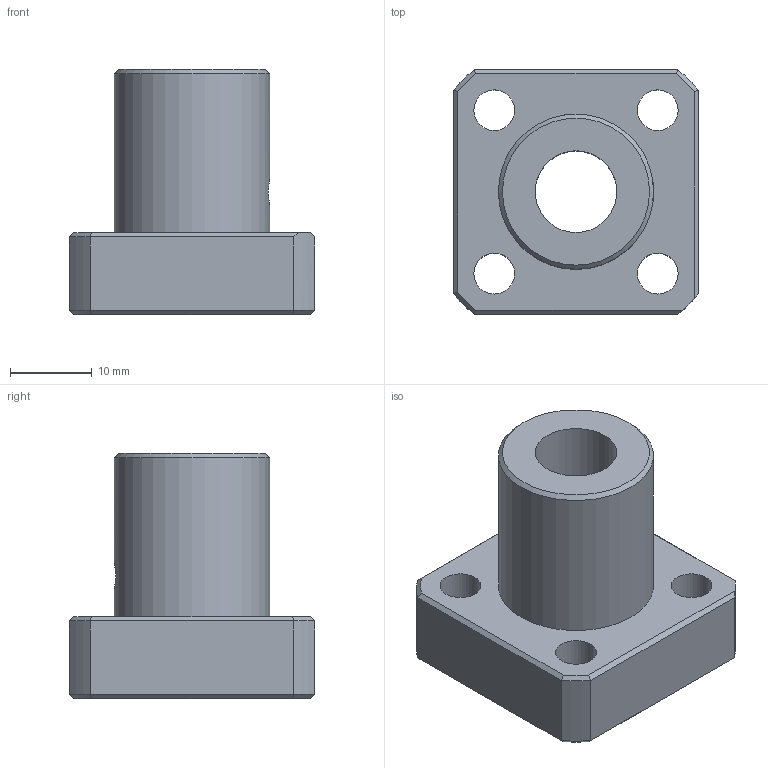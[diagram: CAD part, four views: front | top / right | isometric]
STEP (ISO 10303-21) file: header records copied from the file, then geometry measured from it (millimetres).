
FILE_DESCRIPTION((''),'2;1');
FILE_NAME('D:\製品 (図面)\カタログ用3D\シャフトブロック関連\STEP形式\SFW\SFW10.stp','2010-06-01T16:31:24',('Tsuchiya'),(''),'Autodesk Inventor 10','Autodesk Inventor 10','');
FILE_SCHEMA(('AUTOMOTIVE_DESIGN { 1 0 10303 214 1 1 1 1 }'));
Length unit declared in the file: millimetre
Products named in the file (1): SFW10
Bounding box: 30 x 30 x 30 mm (x, y, z)
Volume: 11350.5 mm3; surface area: 5303.1 mm2
Topology: 1 solids, 1 shells, 52 faces, 128 edges, 82 vertices
Faces by surface type: plane 29, cylinder 10, cone 9, bspline 4
Full cylindrical faces by diameter (mm): 5 x4, 10 x1, 19 x1
Entity records: 1599 total; most frequent: CARTESIAN_POINT 430, DIRECTION 224, ORIENTED_EDGE 222, EDGE_CURVE 111, AXIS2_PLACEMENT_3D 82, EDGE_LOOP 77, VERTEX_POINT 76, VECTOR 60
